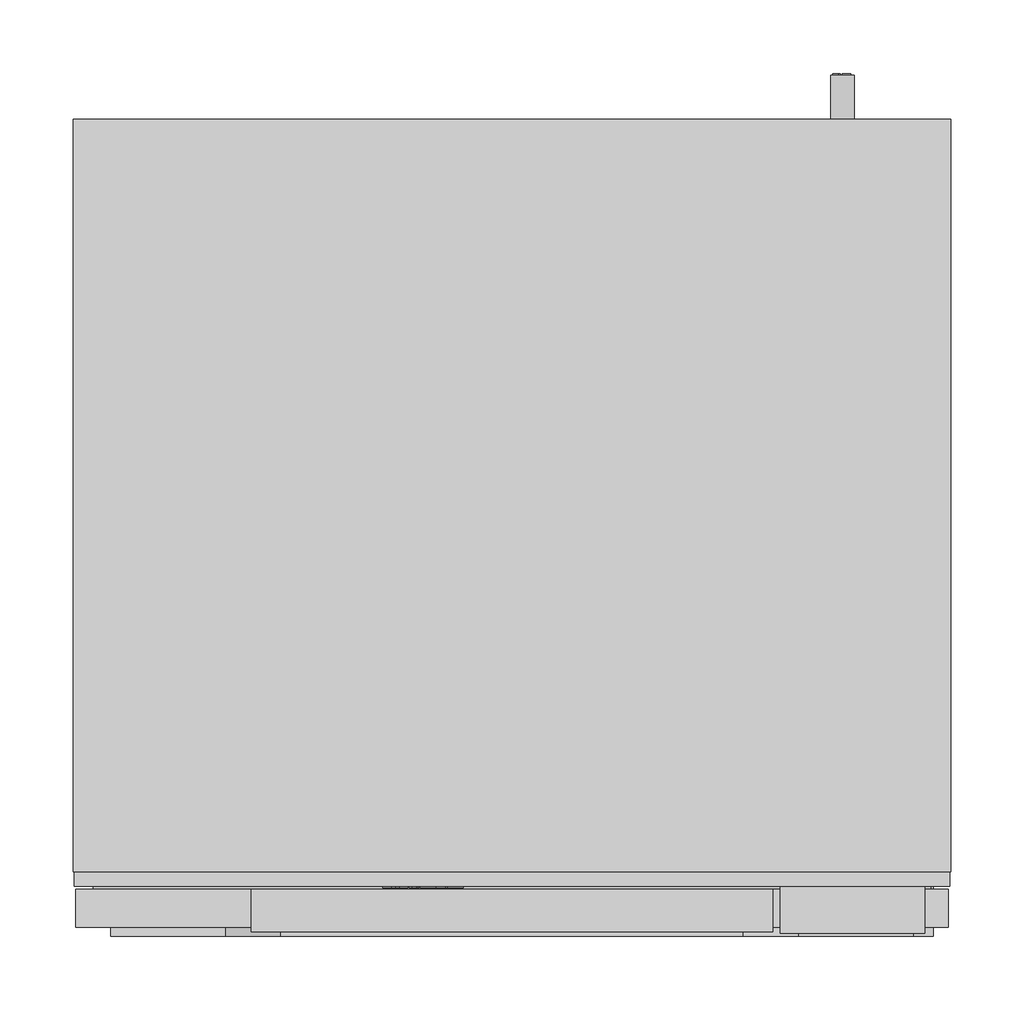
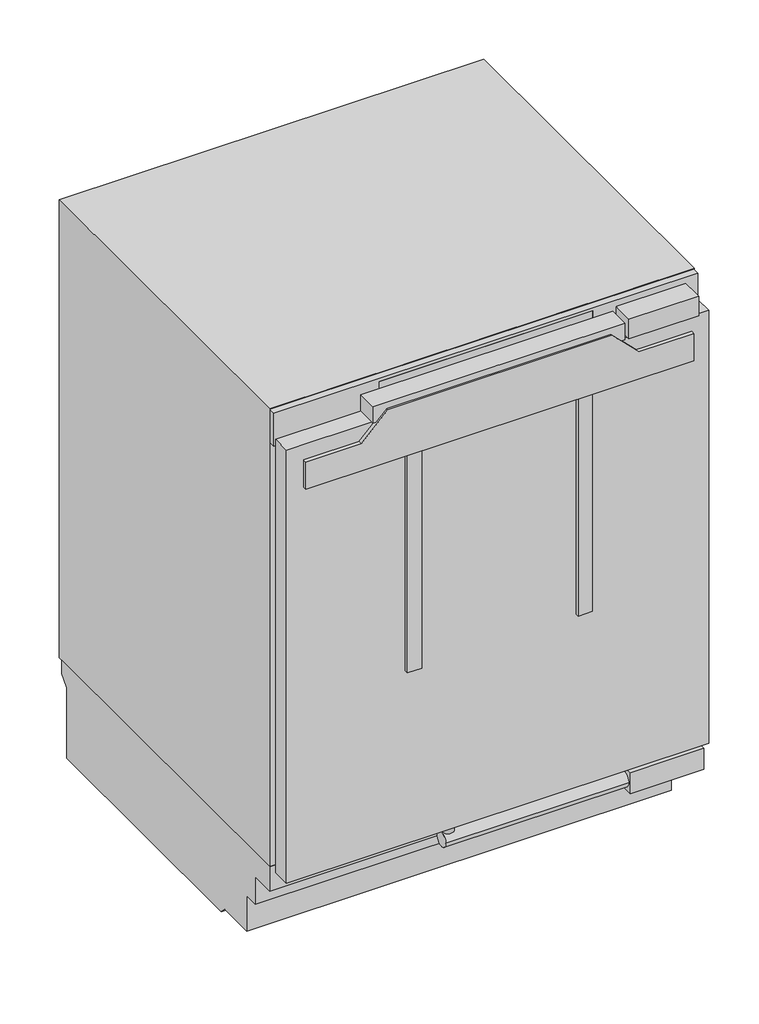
# Not in any storey: 1 proxy.
"""IFC4 building model written with IfcOpenShell, lengths in millimetres."""

import ifcopenshell
import ifcopenshell.guid

model = None  # the IFC model being written
_history = None  # IfcOwnerHistory: only IFC2X3 demands one
_inside = {}  # id of a spatial element -> (the spatial element, [elements in it])
_under = {}  # id of a project, library or spatial element -> (it, [spatial elements below it])
_declared = {}  # id of a project -> (the project, [libraries it declares])
_typed = {}  # id of a type object -> (the type object, [elements of that type])
_made_of = {}  # id of a material, layer set ... -> (it, [elements and type objects made of it])


def new_model(schema):
    """Start an empty IFC model of exactly this schema.

    Asked for "IFC4X3", IfcOpenShell would pick the latest addendum, in which some entities
    have other attributes; the version numbers below select the first issue.
    IFC2X3 requires an IfcOwnerHistory on every rooted entity: one is made here for all.
    """
    global model, _history
    if schema == "IFC4X3":
        model = ifcopenshell.file(schema_version=(4, 3, 0, 0))
    else:
        model = ifcopenshell.file(schema=schema)
    _inside.clear()
    _under.clear()
    _declared.clear()
    _typed.clear()
    _made_of.clear()
    _history = None
    if model.schema == "IFC2X3":
        org = make("IfcOrganization", Name="unknown")
        user = make(
            "IfcPersonAndOrganization",
            ThePerson=make("IfcPerson", FamilyName="unknown"),
            TheOrganization=org,
        )
        app = make(
            "IfcApplication",
            ApplicationDeveloper=org,
            Version="unknown",
            ApplicationFullName="unknown",
            ApplicationIdentifier="unknown",
        )
        _history = make(
            "IfcOwnerHistory",
            OwningUser=user,
            OwningApplication=app,
            ChangeAction="ADDED",
            CreationDate=0,
        )
    return model


def make(cls, **values):
    """One entity of the class cls with the attributes given. An attribute that is None is left unset."""
    return model.create_entity(
        cls, **{name: value for name, value in values.items() if value is not None}
    )


def rooted(cls, **values):
    """An entity with a GlobalId (a new one), such as an element, a storey or a relation."""
    return make(cls, GlobalId=ifcopenshell.guid.new(), OwnerHistory=_history, **values)


def si_unit(unit_type, name, prefix=None):
    """IfcSIUnit, for example si_unit("LENGTHUNIT", "METRE", prefix="MILLI")."""
    return make("IfcSIUnit", UnitType=unit_type, Prefix=prefix, Name=name)


def assignment(units):
    """IfcUnitAssignment: the units of a project."""
    return None if units is None else make("IfcUnitAssignment", Units=units)


def point(xyz):
    """IfcCartesianPoint."""
    return None if xyz is None else make("IfcCartesianPoint", Coordinates=xyz)


def direction(xyz):
    """IfcDirection."""
    return None if xyz is None else make("IfcDirection", DirectionRatios=xyz)


def frame(location, z_axis=None, x_axis=None):
    """IfcAxis2Placement3D, a coordinate frame: its origin and axes. An axis left out is left unset."""
    return make(
        "IfcAxis2Placement3D",
        Location=point(location),
        Axis=direction(z_axis),
        RefDirection=direction(x_axis),
    )


def frame_2d(location, x_axis=None):
    """IfcAxis2Placement2D, a coordinate frame in the plane: its origin and x axis."""
    return make(
        "IfcAxis2Placement2D", Location=point(location), RefDirection=direction(x_axis)
    )


def origin():
    """The frame at (0, 0, 0) with its axes left unset."""
    return frame((0.0, 0.0, 0.0))


def origin_with_axes():
    """The frame at (0, 0, 0) with the z axis (0, 0, 1) and the x axis (1, 0, 0) written out."""
    return frame((0.0, 0.0, 0.0), z_axis=(0.0, 0.0, 1.0), x_axis=(1.0, 0.0, 0.0))


def place(relative_to, where):
    """IfcLocalPlacement: puts the frame where relative to a parent placement (None: the world)."""
    return make(
        "IfcLocalPlacement", PlacementRelTo=relative_to, RelativePlacement=where
    )


def context(
    kind, dimensions, precision=None, world=None, true_north=None, identifier=None
):
    """IfcGeometricRepresentationContext, for example the 3D "Model" context."""
    return make(
        "IfcGeometricRepresentationContext",
        ContextIdentifier=identifier,
        ContextType=kind,
        CoordinateSpaceDimension=dimensions,
        Precision=precision,
        WorldCoordinateSystem=world,
        TrueNorth=true_north,
    )


def project(units=None, contexts=None):
    """IfcProject with its units and contexts."""
    return rooted(
        "IfcProject",
        Name="project",
        RepresentationContexts=contexts,
        UnitsInContext=assignment(units),
    )


def spatial(cls, under=None, at=None, **own):
    """A site, building, storey or space (cls), placed at a placement, below another one or the project."""
    s = rooted(cls, ObjectPlacement=at, **own)
    if under is not None:
        _under.setdefault(under.id(), (under, []))[1].append(s)
    return s


def polyline(points):
    """IfcPolyline through the points."""
    return make("IfcPolyline", Points=[point(p) for p in points])


def circle_curve(where, radius):
    """IfcCircle in the frame where."""
    return make("IfcCircle", Position=where, Radius=radius)


def ellipse_curve(where, semi_axis1, semi_axis2):
    """IfcEllipse in the frame where."""
    return make(
        "IfcEllipse", Position=where, SemiAxis1=semi_axis1, SemiAxis2=semi_axis2
    )


def trimmed(basis, trim1, trim2, sense, master):
    """IfcTrimmedCurve: the piece of a basis curve between two trims."""
    return make(
        "IfcTrimmedCurve",
        BasisCurve=basis,
        Trim1=trim1,
        Trim2=trim2,
        SenseAgreement=sense,
        MasterRepresentation=master,
    )


def segment(curve, same_sense, transition):
    """IfcCompositeCurveSegment."""
    return make(
        "IfcCompositeCurveSegment",
        Transition=transition,
        SameSense=same_sense,
        ParentCurve=curve,
    )


def composite_curve(segments, self_intersect=None):
    """IfcCompositeCurve: segments joined end to end."""
    return make("IfcCompositeCurve", Segments=segments, SelfIntersect=self_intersect)


def outline(outer, holes=None, kind="AREA"):
    """IfcArbitraryClosedProfileDef: a profile drawn as a closed curve; with holes, ...WithVoids."""
    if holes is None:
        return make("IfcArbitraryClosedProfileDef", ProfileType=kind, OuterCurve=outer)
    return make(
        "IfcArbitraryProfileDefWithVoids",
        ProfileType=kind,
        OuterCurve=outer,
        InnerCurves=holes,
    )


def extrude(swept, where, along, depth):
    """IfcExtrudedAreaSolid: the profile swept, set in the frame where, extruded along a direction by depth."""
    return make(
        "IfcExtrudedAreaSolid",
        SweptArea=swept,
        Position=where,
        ExtrudedDirection=direction(along),
        Depth=depth,
    )


def faces_of(points, faces, orient=None, outer=None):
    """IfcFace entities. A face is a list of loops; a loop is a list of indices into points, from 0.

    orient and outer hold one flag for each loop. By default every Orientation is true, the
    first loop of a face is its IfcFaceOuterBound and the others are IfcFaceBound.
    """
    made = []
    for i, loops in enumerate(faces):
        bounds = []
        for j, loop in enumerate(loops):
            is_outer = j == 0 if outer is None else outer[i][j]
            bounds.append(
                make(
                    "IfcFaceOuterBound" if is_outer else "IfcFaceBound",
                    Bound=make("IfcPolyLoop", Polygon=[points[k] for k in loop]),
                    Orientation=True if orient is None else orient[i][j],
                )
            )
        made.append(make("IfcFace", Bounds=bounds))
    return made


def faceted_brep(points, faces, orient=None, outer=None, voids=None):
    """IfcFacetedBrep: a solid bounded by flat faces; with voids (closed shells), ...WithVoids."""
    shared = [point(p) for p in points]
    hull = make("IfcClosedShell", CfsFaces=faces_of(shared, faces, orient, outer))
    if voids is None:
        return make("IfcFacetedBrep", Outer=hull)
    return make(
        "IfcFacetedBrepWithVoids",
        Outer=hull,
        Voids=[
            make(cls, CfsFaces=faces_of(shared, fs, o, b)) for cls, fs, o, b in voids
        ],
    )


def shape(context_of_items, identifier, shape_type, items):
    """IfcShapeRepresentation: the items that make up one representation, for example the "Body"."""
    return make(
        "IfcShapeRepresentation",
        ContextOfItems=context_of_items,
        RepresentationIdentifier=identifier,
        RepresentationType=shape_type,
        Items=items,
    )


def source(mapping_origin, context_of_items, identifier, shape_type, items):
    """IfcRepresentationMap: a shape defined once, which mapped items show again and again."""
    return make(
        "IfcRepresentationMap",
        MappingOrigin=mapping_origin,
        MappedRepresentation=shape(context_of_items, identifier, shape_type, items),
    )


def transform(
    local_origin,
    x_axis=None,
    y_axis=None,
    z_axis=None,
    scale=None,
    scale2=None,
    scale3=None,
    uniform=True,
):
    """IfcCartesianTransformationOperator3D, or its non-uniform kind. x_axis, y_axis, z_axis: its Axis1, 2, 3."""
    if uniform:
        return make(
            "IfcCartesianTransformationOperator3D",
            Axis1=direction(x_axis),
            Axis2=direction(y_axis),
            LocalOrigin=point(local_origin),
            Scale=scale,
            Axis3=direction(z_axis),
        )
    return make(
        "IfcCartesianTransformationOperator3DnonUniform",
        Axis1=direction(x_axis),
        Axis2=direction(y_axis),
        LocalOrigin=point(local_origin),
        Scale=scale,
        Axis3=direction(z_axis),
        Scale2=scale2,
        Scale3=scale3,
    )


def mapped(mapping_source, mapping_target):
    """IfcMappedItem: shows the shape of a source again, moved by a transform."""
    return make(
        "IfcMappedItem", MappingSource=mapping_source, MappingTarget=mapping_target
    )


def made_of(thing, what):
    """Note that an element or type object is made of a material, layer set ...; save() writes the relation."""
    if what is not None:
        _made_of.setdefault(what.id(), (what, []))[1].append(thing)
    return thing


def element(
    cls,
    number,
    at=None,
    inside=None,
    cuts=None,
    type_object=None,
    material=None,
    context=None,
    identifier="Body",
    shape_type=None,
    held_by="IfcProductDefinitionShape",
    body=None,
    shapes=None,
    **own,
):
    """One element of the class cls, such as IfcWall. Its Tag is "e" and its number.

    at: its placement. inside: the storey or other place that contains it. cuts: it is an
    opening in that element (IfcRelVoidsElement). A single representation is given by context,
    identifier, shape_type and body (its items); several are given by shapes. held_by: the class
    of the entity that holds the representations. save() writes the other relations.
    """
    e = rooted(cls, Tag="e%d" % number, ObjectPlacement=at, **own)
    if body is not None:
        shapes = [shape(context, identifier, shape_type, body)]
    if shapes is not None:
        e.Representation = make(held_by, Representations=shapes)
    if inside is not None:
        _inside.setdefault(inside.id(), (inside, []))[1].append(e)
    if cuts is not None:
        rooted(
            "IfcRelVoidsElement", RelatingBuildingElement=cuts, RelatedOpeningElement=e
        )
    if type_object is not None:
        _typed.setdefault(type_object.id(), (type_object, []))[1].append(e)
    return made_of(e, material)


def aggregate(whole, parts):
    """IfcRelAggregates: a whole, such as a stair, and the parts it consists of."""
    return rooted("IfcRelAggregates", RelatingObject=whole, RelatedObjects=parts)


def save(model, path):
    """Write the relations noted so far, then the file.

    IfcRelAggregates (storeys below a building ...), IfcRelContainedInSpatialStructure (elements
    in a storey), IfcRelDefinesByType, IfcRelAssociatesMaterial and IfcRelDeclares: one each for
    every whole, place, type object, material and project.
    """
    for whole, parts in _under.values():
        aggregate(whole, parts)
    for where, things in _inside.values():
        rooted(
            "IfcRelContainedInSpatialStructure",
            RelatedElements=things,
            RelatingStructure=where,
        )
    for kind, things in _typed.values():
        rooted("IfcRelDefinesByType", RelatedObjects=things, RelatingType=kind)
    for what, things in _made_of.values():
        rooted("IfcRelAssociatesMaterial", RelatedObjects=things, RelatingMaterial=what)
    for by, libraries in _declared.values():
        rooted("IfcRelDeclares", RelatingContext=by, RelatedDefinitions=libraries)
    model.write(path)


def plane_surface(at):
    """IfcPlane: the flat surface through the origin of the frame at, square to its z axis."""
    return make("IfcPlane", Position=at)


def cylinder_surface(at, radius):
    """IfcCylindricalSurface: all points at the distance radius from the z axis of the frame at."""
    return make("IfcCylindricalSurface", Position=at, Radius=radius)


def revolved_surface(curve, axis_point, axis_direction):
    """IfcSurfaceOfRevolution: the curve turned about the line through axis_point along axis_direction."""
    return make(
        "IfcSurfaceOfRevolution",
        SweptCurve=make("IfcArbitraryOpenProfileDef", ProfileType="CURVE", Curve=curve),
        AxisPosition=make("IfcAxis1Placement", Location=point(axis_point), Axis=direction(axis_direction)),
    )


def extruded_surface(curve, direction_of_extrusion, depth):
    """IfcSurfaceOfLinearExtrusion: the curve pushed along a direction by depth."""
    return make(
        "IfcSurfaceOfLinearExtrusion",
        SweptCurve=make("IfcArbitraryOpenProfileDef", ProfileType="CURVE", Curve=curve),
        ExtrudedDirection=direction(direction_of_extrusion),
        Depth=depth,
    )


def advanced_brep(points, edges, surfaces, faces):
    """IfcAdvancedBrep: a solid bounded by faces that lie on surfaces and meet in shared edges.

    An edge is (start, end): straight between two places in points (the first is 0);
    or (start, end, curve); or (start, end, curve, False) where it runs against its curve.
    A face is (place in surfaces, loops), or (place, loops, False) where it looks against
    its surface's normal. A loop lists edges by number (the first is 1), with a minus sign
    where the edge is run from its end to its start. The first loop is the outer one.
    """
    corners = [point(p) for p in points]
    vertices = [make("IfcVertexPoint", VertexGeometry=c) for c in corners]
    made = []
    for start, end, *more in edges:
        made.append(
            make(
                "IfcEdgeCurve",
                EdgeStart=vertices[start],
                EdgeEnd=vertices[end],
                EdgeGeometry=more[0] if more else make("IfcPolyline", Points=[corners[start], corners[end]]),
                SameSense=more[1] if len(more) > 1 else True,
            )
        )
    hull = []
    for where, loops, *sense in faces:
        bounds = []
        for j, loop in enumerate(loops):
            ring = [make("IfcOrientedEdge", EdgeElement=made[abs(k) - 1], Orientation=k > 0) for k in loop]
            bounds.append(
                make(
                    "IfcFaceOuterBound" if j == 0 else "IfcFaceBound",
                    Bound=make("IfcEdgeLoop", EdgeList=ring),
                    Orientation=True,
                )
            )
        hull.append(make("IfcAdvancedFace", Bounds=bounds, FaceSurface=surfaces[where], SameSense=sense[0] if sense else True))
    return make("IfcAdvancedBrep", Outer=make("IfcClosedShell", CfsFaces=hull))


def specialty_equipment_a0025fa9(model_context):
    return source(origin(), model_context, "Body", "SolidModel", [
        extrude(outline(polyline([(795.9349293, -88.017), (795.9349293, -86.928), (789.9139293, -86.928), (789.9139293, -88.017), (788.4019293, -88.017), (788.4019293, -84.057), (789.9139293, -84.057), (789.9139293, -85.137), (793.7360541, -85.137), (788.4019293, -81.114), (793.8421516, -77.073), (789.9139293, -77.073), (789.9139293, -78.18), (788.4019293, -78.18), (788.4019293, -70.998), (789.9139293, -70.998), (789.9139293, -72.141), (795.9349293, -72.141), (795.9349293, -70.998), (797.4019293, -70.998), (797.4019293, -76.479), (794.0269293, -79.107), (797.4019293, -81.744), (797.4019293, -88.017), (795.9349293, -88.017)])), frame((0.0, 33.1, 0.0), z_axis=(0.0, 1.0, 0.0), x_axis=(0.0, 0.0, 1.0)), (0.0, 0.0, 1.0), 1.0),
        extrude(outline(polyline([(795.9349293, -51.495), (795.9349293, -50.415), (789.9139293, -50.415), (789.9139293, -51.495), (788.4019293, -51.495), (788.4019293, -44.196), (789.9139293, -44.196), (789.9139293, -45.303), (797.4019293, -45.303), (797.4019293, -51.495), (795.9349293, -51.495)])), frame((0.0, 33.1, 0.0), z_axis=(0.0, 1.0, 0.0), x_axis=(0.0, 0.0, 1.0)), (0.0, 0.0, 1.0), 1.0),
        extrude(outline(polyline([(796.8709293, -67.857), (795.4129293, -67.173), (796.8349293, -64.122), (798.2929293, -64.797), (796.8709293, -67.857)])), frame((0.0, 33.1, 0.0), z_axis=(0.0, 1.0, 0.0), x_axis=(0.0, 0.0, 1.0)), (0.0, 0.0, 1.0), 1.0),
        extrude(outline(polyline([(795.2149293, -70.08), (793.6039293, -70.08), (793.6039293, -69.009), (789.9139293, -69.009), (789.9139293, -70.08), (788.4019293, -70.08), (788.4019293, -62.979), (789.9139293, -62.979), (789.9139293, -64.023), (795.2149293, -64.023), (795.2149293, -70.08)])), frame((0.0, 33.1, 0.0), z_axis=(0.0, 1.0, 0.0), x_axis=(0.0, 0.0, 1.0)), (0.0, 0.0, 1.0), 1.0),
        advanced_brep(
        [(-58.02, 33.1, 790.5349293), (-58.02, 33.1, 791.4439293), (-51.999, 33.1, 791.4439293), (-62.475, 33.1, 791.4439293), (-60.0, 33.1, 788.4019293), (-52.152, 33.1, 790.5349293), (-54.87, 33.1, 790.5349293), (-57.012, 33.1, 789.5269293), (-58.02, 33.1, 792.5959293), (-58.02, 33.1, 793.5769293), (-56.481, 33.1, 793.5769293), (-56.481, 33.1, 792.5959293), (-58.02, 34.1, 790.5349293), (-57.012, 34.1, 789.5269293), (-54.87, 34.1, 790.5349293), (-52.152, 34.1, 790.5349293), (-60.0, 34.1, 788.4019293), (-62.475, 34.1, 791.4439293), (-51.999, 34.1, 791.4439293), (-58.02, 34.1, 791.4439293), (-58.02, 34.1, 792.5959293), (-56.481, 34.1, 792.5959293), (-56.481, 34.1, 793.5769293), (-58.02, 34.1, 793.5769293)],
        [
            (0, 1),
            (1, 2),
            (2, 3, ellipse_curve(frame((-57.237, 33.1, 791.4439293), z_axis=(0.0, -1.0, 0.0), x_axis=(-1.0, 0.0, 0.0)), 5.238, 4.329)),
            (3, 4, circle_curve(frame((-58.9919509, 33.1, 791.7499293), z_axis=(0.0, -1.0, 0.0), x_axis=(0.0, 0.0, -1.0)), 3.4964649)),
            (4, 5, circle_curve(frame((-57.3418572, 33.1, 794.1259293), z_axis=(0.0, -1.0, 0.0), x_axis=(0.0, 0.0, -1.0)), 6.3110933)),
            (5, 6),
            (6, 7, circle_curve(frame((-56.5720588, 33.1, 791.3719293), z_axis=(0.0, 1.0, 0.0), x_axis=(0.0, 0.0, -1.0)), 1.896727)),
            (7, 0, circle_curve(frame((-57.012, 33.1, 790.5349293), z_axis=(0.0, 1.0, 0.0), x_axis=(0.0, 0.0, -1.0)), 1.008)),
            (8, 9),
            (9, 10, circle_curve(frame((-57.2505, 33.1, 793.5769293), z_axis=(0.0, 1.0, 0.0), x_axis=(0.0, 0.0, -1.0)), 0.7695)),
            (10, 11),
            (11, 8),
            (12, 13, circle_curve(frame((-57.012, 34.1, 790.5349293), z_axis=(0.0, -1.0, 0.0), x_axis=(0.0, 0.0, -1.0)), 1.008)),
            (13, 14, circle_curve(frame((-56.5720588, 34.1, 791.3719293), z_axis=(0.0, -1.0, 0.0), x_axis=(0.0, 0.0, -1.0)), 1.896727)),
            (14, 15),
            (15, 16, circle_curve(frame((-57.3418572, 34.1, 794.1259293), z_axis=(0.0, 1.0, 0.0), x_axis=(0.0, 0.0, -1.0)), 6.3110933)),
            (16, 17, circle_curve(frame((-58.9919509, 34.1, 791.7499293), z_axis=(0.0, 1.0, 0.0), x_axis=(0.0, 0.0, -1.0)), 3.4964649)),
            (17, 18, ellipse_curve(frame((-57.237, 34.1, 791.4439293), z_axis=(0.0, 1.0, 0.0), x_axis=(-1.0, 0.0, 0.0)), 5.238, 4.329)),
            (18, 19),
            (19, 12),
            (20, 21),
            (21, 22),
            (22, 23, circle_curve(frame((-57.2505, 34.1, 793.5769293), z_axis=(0.0, -1.0, 0.0), x_axis=(0.0, 0.0, -1.0)), 0.7695)),
            (23, 20),
            (0, 12),
            (19, 1),
            (18, 2),
            (5, 15),
            (14, 6),
            (17, 3),
            (13, 7),
            (16, 4),
            (8, 20),
            (23, 9),
            (22, 10),
            (21, 11),
        ],
        [
            plane_surface(frame((-58.02, 33.1, 791.4439293), z_axis=(0.0, -1.0, 0.0), x_axis=(0.0, 0.0, 1.0))),
            plane_surface(frame((-58.02, 34.1, 791.4439293), z_axis=(0.0, 1.0, 0.0), x_axis=(0.0, 0.0, -1.0))),
            plane_surface(frame((-58.02, 33.1, 790.5349293), z_axis=(1.0, 0.0, 0.0), x_axis=(0.0, 1.0, 0.0))),
            plane_surface(frame((-58.02, 33.1, 791.4439293), z_axis=(0.0, 0.0, -1.0), x_axis=(0.0, 1.0, 0.0))),
            plane_surface(frame((-52.152, 33.1, 790.5349293), z_axis=(0.0, 0.0, 1.0), x_axis=(0.0, 1.0, 0.0))),
            extruded_surface(trimmed(ellipse_curve(frame((-57.237, 35.1, 791.4439293), z_axis=(0.0, -1.0, 0.0), x_axis=(-1.0, 0.0, 0.0)), 5.238, 4.329), [point((-51.999, 35.1, 791.4439293))], [point((-62.475, 35.1, 791.4439293))], True, "CARTESIAN"), (0.0, -1.0, 0.0), 1.0),
            revolved_surface(polyline([(-56.5720588, 34.1, 789.4752023), (-56.5720588, 33.1, 789.4752023)]), (-56.5720588, 34.1, 791.3719293), (0.0, 1.0, 0.0)),
            revolved_surface(polyline([(-57.012, 34.1, 789.5269293), (-57.012, 33.1, 789.5269293)]), (-57.012, 34.1, 790.5349293), (0.0, 1.0, 0.0)),
            cylinder_surface(frame((-58.9919509, 34.1, 791.7499293), z_axis=(0.0, -1.0, 0.0), x_axis=(0.0, 0.0, -1.0)), 3.4964649),
            cylinder_surface(frame((-57.3418572, 34.1, 794.1259293), z_axis=(0.0, -1.0, 0.0), x_axis=(0.0, 0.0, -1.0)), 6.3110933),
            plane_surface(frame((-58.02, 33.1, 792.5959293), z_axis=(1.0, 0.0, 0.0), x_axis=(0.0, 1.0, 0.0))),
            revolved_surface(polyline([(-57.2505, 34.1, 792.8074293), (-57.2505, 33.1, 792.8074293)]), (-57.2505, 34.1, 793.5769293), (0.0, 1.0, 0.0)),
            plane_surface(frame((-56.481, 33.1, 793.5769293), z_axis=(-1.0, 0.0, 0.0), x_axis=(0.0, 1.0, 0.0))),
            plane_surface(frame((-56.481, 33.1, 792.5959293), z_axis=(0.0, 0.0, 1.0), x_axis=(0.0, 1.0, 0.0))),
        ],
        [
            (0, [[1, 2, 3, 4, 5, 6, 7, 8], [9, 10, 11, 12]]),
            (1, [[13, 14, 15, 16, 17, 18, 19, 20], [21, 22, 23, 24]]),
            (2, [[-1, 25, -20, 26]]),
            (3, [[-2, -26, -19, 27]]),
            (4, [[-6, 28, -15, 29]]),
            (5, [[-3, -27, -18, 30]]),
            (6, [[-7, -29, -14, 31]]),
            (7, [[-8, -31, -13, -25]]),
            (8, [[-4, -30, -17, 32]]),
            (9, [[-5, -32, -16, -28]]),
            (10, [[-9, 33, -24, 34]]),
            (11, [[-10, -34, -23, 35]]),
            (12, [[-11, -35, -22, 36]]),
            (13, [[-12, -36, -21, -33]]),
        ],
    ),
        advanced_brep(
        [(-39.237, 33.1, 790.5349293), (-39.237, 33.1, 791.4439293), (-33.216, 33.1, 791.4439293), (-43.692, 33.1, 791.4439293), (-41.217, 33.1, 788.4019293), (-33.369, 33.1, 790.5349293), (-36.087, 33.1, 790.5349293), (-38.229, 33.1, 789.5269293), (-39.237, 33.1, 792.5959293), (-39.237, 33.1, 793.5769293), (-37.698, 33.1, 793.5769293), (-37.698, 33.1, 792.5959293), (-39.237, 34.1, 790.5349293), (-38.229, 34.1, 789.5269293), (-36.087, 34.1, 790.5349293), (-33.369, 34.1, 790.5349293), (-41.217, 34.1, 788.4019293), (-43.692, 34.1, 791.4439293), (-33.216, 34.1, 791.4439293), (-39.237, 34.1, 791.4439293), (-39.237, 34.1, 792.5959293), (-37.698, 34.1, 792.5959293), (-37.698, 34.1, 793.5769293), (-39.237, 34.1, 793.5769293)],
        [
            (0, 1),
            (1, 2),
            (2, 3, ellipse_curve(frame((-38.454, 33.1, 791.4439293), z_axis=(0.0, -1.0, 0.0), x_axis=(-1.0, 0.0, 0.0)), 5.238, 4.329)),
            (3, 4, circle_curve(frame((-40.2089509, 33.1, 791.7499293), z_axis=(0.0, -1.0, 0.0), x_axis=(0.0, 0.0, -1.0)), 3.4964649)),
            (4, 5, circle_curve(frame((-38.5588572, 33.1, 794.1259293), z_axis=(0.0, -1.0, 0.0), x_axis=(0.0, 0.0, -1.0)), 6.3110933)),
            (5, 6),
            (6, 7, circle_curve(frame((-37.7890588, 33.1, 791.3719293), z_axis=(0.0, 1.0, 0.0), x_axis=(0.0, 0.0, -1.0)), 1.896727)),
            (7, 0, circle_curve(frame((-38.229, 33.1, 790.5349293), z_axis=(0.0, 1.0, 0.0), x_axis=(0.0, 0.0, -1.0)), 1.008)),
            (8, 9),
            (9, 10, circle_curve(frame((-38.4675, 33.1, 793.5769293), z_axis=(0.0, 1.0, 0.0), x_axis=(0.0, 0.0, -1.0)), 0.7695)),
            (10, 11),
            (11, 8),
            (12, 13, circle_curve(frame((-38.229, 34.1, 790.5349293), z_axis=(0.0, -1.0, 0.0), x_axis=(0.0, 0.0, -1.0)), 1.008)),
            (13, 14, circle_curve(frame((-37.7890588, 34.1, 791.3719293), z_axis=(0.0, -1.0, 0.0), x_axis=(0.0, 0.0, -1.0)), 1.896727)),
            (14, 15),
            (15, 16, circle_curve(frame((-38.5588572, 34.1, 794.1259293), z_axis=(0.0, 1.0, 0.0), x_axis=(0.0, 0.0, -1.0)), 6.3110933)),
            (16, 17, circle_curve(frame((-40.2089509, 34.1, 791.7499293), z_axis=(0.0, 1.0, 0.0), x_axis=(0.0, 0.0, -1.0)), 3.4964649)),
            (17, 18, ellipse_curve(frame((-38.454, 34.1, 791.4439293), z_axis=(0.0, 1.0, 0.0), x_axis=(-1.0, 0.0, 0.0)), 5.238, 4.329)),
            (18, 19),
            (19, 12),
            (20, 21),
            (21, 22),
            (22, 23, circle_curve(frame((-38.4675, 34.1, 793.5769293), z_axis=(0.0, -1.0, 0.0), x_axis=(0.0, 0.0, -1.0)), 0.7695)),
            (23, 20),
            (0, 12),
            (19, 1),
            (18, 2),
            (5, 15),
            (14, 6),
            (17, 3),
            (13, 7),
            (16, 4),
            (8, 20),
            (23, 9),
            (22, 10),
            (21, 11),
        ],
        [
            plane_surface(frame((-39.237, 33.1, 791.4439293), z_axis=(0.0, -1.0, 0.0), x_axis=(0.0, 0.0, 1.0))),
            plane_surface(frame((-39.237, 34.1, 791.4439293), z_axis=(0.0, 1.0, 0.0), x_axis=(0.0, 0.0, -1.0))),
            plane_surface(frame((-39.237, 33.1, 790.5349293), z_axis=(1.0, 0.0, 0.0), x_axis=(0.0, 1.0, 0.0))),
            plane_surface(frame((-39.237, 33.1, 791.4439293), z_axis=(0.0, 0.0, -1.0), x_axis=(0.0, 1.0, 0.0))),
            plane_surface(frame((-33.369, 33.1, 790.5349293), z_axis=(0.0, 0.0, 1.0), x_axis=(0.0, 1.0, 0.0))),
            extruded_surface(trimmed(ellipse_curve(frame((-38.454, 35.1, 791.4439293), z_axis=(0.0, -1.0, 0.0), x_axis=(-1.0, 0.0, 0.0)), 5.238, 4.329), [point((-33.216, 35.1, 791.4439293))], [point((-43.692, 35.1, 791.4439293))], True, "CARTESIAN"), (0.0, -1.0, 0.0), 1.0),
            revolved_surface(polyline([(-37.7890588, 34.1, 789.4752023), (-37.7890588, 33.1, 789.4752023)]), (-37.7890588, 34.1, 791.3719293), (0.0, 1.0, 0.0)),
            revolved_surface(polyline([(-38.229, 34.1, 789.5269293), (-38.229, 33.1, 789.5269293)]), (-38.229, 34.1, 790.5349293), (0.0, 1.0, 0.0)),
            cylinder_surface(frame((-40.2089509, 34.1, 791.7499293), z_axis=(0.0, -1.0, 0.0), x_axis=(0.0, 0.0, -1.0)), 3.4964649),
            cylinder_surface(frame((-38.5588572, 34.1, 794.1259293), z_axis=(0.0, -1.0, 0.0), x_axis=(0.0, 0.0, -1.0)), 6.3110933),
            plane_surface(frame((-39.237, 33.1, 792.5959293), z_axis=(1.0, 0.0, 0.0), x_axis=(0.0, 1.0, 0.0))),
            revolved_surface(polyline([(-38.4675, 34.1, 792.8074293), (-38.4675, 33.1, 792.8074293)]), (-38.4675, 34.1, 793.5769293), (0.0, 1.0, 0.0)),
            plane_surface(frame((-37.698, 33.1, 793.5769293), z_axis=(-1.0, 0.0, 0.0), x_axis=(0.0, 1.0, 0.0))),
            plane_surface(frame((-37.698, 33.1, 792.5959293), z_axis=(0.0, 0.0, 1.0), x_axis=(0.0, 1.0, 0.0))),
        ],
        [
            (0, [[1, 2, 3, 4, 5, 6, 7, 8], [9, 10, 11, 12]]),
            (1, [[13, 14, 15, 16, 17, 18, 19, 20], [21, 22, 23, 24]]),
            (2, [[-1, 25, -20, 26]]),
            (3, [[-2, -26, -19, 27]]),
            (4, [[-6, 28, -15, 29]]),
            (5, [[-3, -27, -18, 30]]),
            (6, [[-7, -29, -14, 31]]),
            (7, [[-8, -31, -13, -25]]),
            (8, [[-4, -30, -17, 32]]),
            (9, [[-5, -32, -16, -28]]),
            (10, [[-9, 33, -24, 34]]),
            (11, [[-10, -34, -23, 35]]),
            (12, [[-11, -35, -22, 36]]),
            (13, [[-12, -36, -21, -33]]),
        ],
    ),
        extrude(outline(polyline([(150.0048218, 34.0937347), (-150.0048218, 34.0937347), (-150.0048218, 44.0), (150.0048218, 44.0), (150.0048218, 34.0937347)])), frame((0.0, 0.0, 773.2139282), z_axis=(0.0, 0.0, 1.0), x_axis=(1.0, 0.0, 0.0)), (0.0, 0.0, 1.0), 39.9850464),
        extrude(outline(polyline([(817.6989746, 298.0), (817.6989746, -298.0), (768.7051238, -298.0), (768.7051238, 298.0), (817.6989746, 298.0)]), holes=[polyline([(813.1989746, -150.0048218), (813.1989746, 150.0048218), (773.2139282, 150.0048218), (773.2139282, -150.0048218), (813.1989746, -150.0048218)])]), frame((0.0, 34.0937347, 0.0), z_axis=(0.0, 1.0, 0.0), x_axis=(0.0, 0.0, 1.0)), (0.0, 0.0, 1.0), 9.9062653),
        faceted_brep([(-298.5, 550.1, 137.8999939), (-298.5, 550.1, 117.6051112), (-298.5, 537.6, 105.1051112), (-298.5, 537.6, 0.0), (-298.5, 161.2567793, 0.0), (-298.5, 152.9391747, 8.3176046), (-298.5, 100.0, 8.3176046), (-298.5, 100.0, 60.7725754), (-298.5, 79.0216446, 60.7725754), (-298.5, 79.0216446, 101.8184894), (-298.5, 44.0, 101.8184894), (-298.5, 44.0, 137.8999939), (298.5, 550.1, 137.8999939), (298.5, 44.0, 137.8999939), (298.5, 44.0, 101.8184894), (298.5, 79.0216446, 101.8184894), (298.5, 79.0216446, 60.7725754), (298.5, 100.0, 60.7725754), (298.5, 100.0, 8.3176046), (298.5, 152.9391747, 8.3176046), (298.5, 161.2567793, 0.0), (298.5, 537.6, 0.0), (298.5, 537.6, 105.1051112), (298.5, 550.1, 117.6051112), (296.7000122, 463.8596389, 0.0), (256.5957336, 463.8596389, 0.0), (256.5957336, 399.1975098, 0.0), (296.7000122, 399.1975098, 0.0), (-296.7000122, 463.8596389, 0.0), (-296.7000122, 399.1975098, 0.0), (-256.5957336, 399.1975098, 0.0), (-256.5957336, 463.8596389, 0.0), (296.7000122, 463.8596389, 8.7371401), (296.7000122, 399.1975098, 8.7371401), (256.5957336, 399.1975098, 8.7371401), (256.5957336, 463.8596389, 8.7371401), (-296.7000122, 463.8596389, 8.7371401), (-256.5957336, 463.8596389, 8.7371401), (-256.5957336, 399.1975098, 8.7371401), (-296.7000122, 399.1975098, 8.7371401)], [[[0, 1, 2, 3, 4, 5, 6, 7, 8, 9, 10, 11]], [[12, 13, 14, 15, 16, 17, 18, 19, 20, 21, 22, 23]], [[0, 11, 13, 12]], [[11, 10, 14, 13]], [[10, 9, 15, 14]], [[9, 8, 16, 15]], [[8, 7, 17, 16]], [[7, 6, 18, 17]], [[6, 5, 19, 18]], [[5, 4, 20, 19]], [[4, 3, 21, 20], [24, 25, 26, 27], [28, 29, 30, 31]], [[3, 2, 22, 21]], [[2, 1, 23, 22]], [[1, 0, 12, 23]], [[32, 33, 34, 35]], [[36, 37, 38, 39]], [[32, 35, 25, 24]], [[35, 34, 26, 25]], [[34, 33, 27, 26]], [[33, 32, 24, 27]], [[36, 39, 29, 28]], [[39, 38, 30, 29]], [[38, 37, 31, 30]], [[37, 36, 28, 31]]]),
        faceted_brep([(298.5, 44.0, 819.0), (298.5, 44.0, 137.8999939), (298.5, 556.2, 137.8999939), (298.5, 556.2, 819.0), (-298.5, 44.0, 819.0), (-298.5, 556.2, 819.0), (-298.5, 556.2, 137.8999939), (-298.5, 44.0, 137.8999939), (263.0, 44.0, 719.0), (263.0, 44.0, 150.0), (-263.0, 44.0, 150.0), (-263.0, 44.0, 719.0), (263.0, 510.8638012, 150.0), (263.0, 510.8638012, 719.0), (-263.0, 510.8638012, 719.0), (-263.0, 510.8638012, 150.0)], [[[0, 1, 2, 3]], [[4, 5, 6, 7]], [[1, 0, 4, 7], [8, 9, 10, 11]], [[2, 1, 7, 6]], [[3, 2, 6, 5]], [[0, 3, 5, 4]], [[12, 13, 14, 15]], [[13, 12, 9, 8]], [[14, 13, 8, 11]], [[15, 14, 11, 10]], [[12, 15, 10, 9]]]),
        extrude(outline(polyline([(263.0, 510.8638012), (263.0, 339.3), (-263.0, 339.3), (-263.0, 510.8638012), (263.0, 510.8638012)])), frame((0.0, 0.0, 150.0), z_axis=(0.0, 0.0, 1.0), x_axis=(1.0, 0.0, 0.0)), (0.0, 0.0, 1.0), 71.8999939),
        extrude(outline(composite_curve([segment(trimmed(circle_curve(frame_2d((-270.8532135, 136.0)), 15.7049948), [point((-286.5582083, 136.0))], [point((-255.1482187, 136.0))], False, "CARTESIAN"), True, "CONTINUOUS"), segment(trimmed(circle_curve(frame_2d((-270.8532135, 136.0)), 15.7049948), [point((-255.1482187, 136.0))], [point((-286.5582083, 136.0))], False, "CARTESIAN"), True, "CONTINUOUS")], self_intersect=False)), origin_with_axes(), (0.0, 0.0, 1.0), 8.3176046),
        extrude(outline(composite_curve([segment(trimmed(circle_curve(frame_2d((270.8532135, 136.0)), 15.7049948), [point((286.5582083, 136.0))], [point((255.1482187, 136.0))], False, "CARTESIAN"), True, "CONTINUOUS"), segment(trimmed(circle_curve(frame_2d((270.8532135, 136.0)), 15.7049948), [point((255.1482187, 136.0))], [point((286.5582083, 136.0))], False, "CARTESIAN"), True, "CONTINUOUS")], self_intersect=False)), origin_with_axes(), (0.0, 0.0, 1.0), 8.3176046),
        extrude(outline(composite_curve([segment(trimmed(circle_curve(frame_2d((-275.822369, 437.7)), 16.0), [point((-291.822369, 437.7))], [point((-259.822369, 437.7))], False, "CARTESIAN"), True, "CONTINUOUS"), segment(trimmed(circle_curve(frame_2d((-275.822369, 437.7)), 16.0), [point((-259.822369, 437.7))], [point((-291.822369, 437.7))], False, "CARTESIAN"), True, "CONTINUOUS")], self_intersect=False)), origin_with_axes(), (0.0, 0.0, 1.0), 8.3176046),
        extrude(outline(composite_curve([segment(trimmed(circle_curve(frame_2d((275.822369, 437.7)), 16.0), [point((259.822369, 437.7))], [point((291.822369, 437.7))], False, "CARTESIAN"), True, "CONTINUOUS"), segment(trimmed(circle_curve(frame_2d((275.822369, 437.7)), 16.0), [point((291.822369, 437.7))], [point((259.822369, 437.7))], False, "CARTESIAN"), True, "CONTINUOUS")], self_intersect=False)), origin_with_axes(), (0.0, 0.0, 1.0), 8.3176046),
        extrude(outline(composite_curve([segment(trimmed(circle_curve(frame_2d((144.2460785, 224.8152695)), 8.0), [point((144.2460785, 216.8152695))], [point((144.2460785, 232.8152695))], False, "CARTESIAN"), True, "CONTINUOUS"), segment(trimmed(circle_curve(frame_2d((144.2460785, 224.8152695)), 8.0), [point((144.2460785, 232.8152695))], [point((144.2460785, 216.8152695))], False, "CARTESIAN"), True, "CONTINUOUS")], self_intersect=False)), frame((0.0, 556.2, 0.0), z_axis=(0.0, 1.0, 0.0), x_axis=(0.0, 0.0, 1.0)), (0.0, 0.0, 1.0), 30.0),
        extrude(outline(polyline([(140.2460785, 230.7170777), (148.2825833, 230.7170777), (148.2825833, 224.9408399), (147.2780202, 224.9408399), (147.2780202, 229.7125146), (144.8921828, 229.7125146), (144.8921828, 225.1919806), (143.8876197, 225.1919806), (143.8876197, 229.7125146), (141.2506416, 229.7125146), (141.2506416, 224.8152695), (140.2460785, 224.8152695), (140.2460785, 230.7170777)])), frame((0.0, 586.2, 0.0), z_axis=(0.0, 1.0, 0.0), x_axis=(0.0, 0.0, 1.0)), (0.0, 0.0, 1.0), 1.0),
        extrude(outline(polyline([(140.2460785, 223.3084248), (148.2825833, 223.3084248), (148.2825833, 222.3038617), (141.2506416, 222.3038617), (141.2506416, 218.2856093), (140.2460785, 218.2856093), (140.2460785, 223.3084248)])), frame((0.0, 586.2, 0.0), z_axis=(0.0, 1.0, 0.0), x_axis=(0.0, 0.0, 1.0)), (0.0, 0.0, 1.0), 1.0),
        extrude(outline(polyline([(280.7999573, 2.0229698), (182.5283813, 2.0229698), (182.5283813, 44.0), (280.7999573, 44.0), (280.7999573, 2.0229698)])), frame((0.0, 0.0, 780.0), z_axis=(0.0, 0.0, 1.0), x_axis=(1.0, 0.0, 0.0)), (0.0, 0.0, 1.0), 28.7067261),
        extrude(outline(polyline([(297.0, 6.0), (-297.0, 6.0), (-297.0, 32.0), (297.0, 32.0), (297.0, 6.0)])), frame((0.0, 0.0, 136.0), z_axis=(0.0, 0.0, 1.0), x_axis=(1.0, 0.0, 0.0)), (0.0, 0.0, 1.0), 644.0),
        extrude(outline(polyline([(285.0, 44.0), (285.0, 32.0), (-285.0, 32.0), (-285.0, 44.0), (285.0, 44.0)])), frame((0.0, 0.0, 148.5030441), z_axis=(0.0, 0.0, 1.0), x_axis=(1.0, 0.0, 0.0)), (0.0, 0.0, 1.0), 615.9969559),
        extrude(outline(polyline([(804.6210938, 177.3252429), (804.6210938, -177.3251393), (780.0, -177.3252429), (780.0, 177.3252429), (804.6210938, 177.3252429)])), frame((0.0, 3.0, 0.0), z_axis=(0.0, 1.0, 0.0), x_axis=(0.0, 0.0, 1.0)), (0.0, 0.0, 1.0), 29.0),
        extrude(outline(composite_curve([segment(trimmed(circle_curve(frame_2d((14.2130013, 118.3500061)), 10.647874), [point((3.5651273, 118.3500061))], [point((24.8608752, 118.3500061))], False, "CARTESIAN"), True, "CONTINUOUS"), segment(trimmed(circle_curve(frame_2d((14.2130013, 118.3500061)), 10.647874), [point((24.8608752, 118.3500061))], [point((3.5651273, 118.3500061))], False, "CARTESIAN"), True, "CONTINUOUS")], self_intersect=False)), frame((-73.8137398, 0.0, 0.0), z_axis=(1.0, 0.0, 0.0), x_axis=(0.0, 1.0, 0.0)), (0.0, 0.0, 1.0), 257.1515813),
        extrude(outline(composite_curve([segment(trimmed(circle_curve(frame_2d((-65.2000504, 14.2130013)), 8.0), [point((-73.2000504, 14.2130013))], [point((-57.2000504, 14.2130013))], False, "CARTESIAN"), True, "CONTINUOUS"), segment(trimmed(circle_curve(frame_2d((-65.2000504, 14.2130013)), 8.0), [point((-57.2000504, 14.2130013))], [point((-73.2000504, 14.2130013))], False, "CARTESIAN"), True, "CONTINUOUS")], self_intersect=False)), frame((0.0, 0.0, 128.9978801), z_axis=(0.0, 0.0, 1.0), x_axis=(1.0, 0.0, 0.0)), (0.0, 0.0, 1.0), 7.0021199),
        extrude(outline(polyline([(286.7815857, 0.0), (183.3378415, 0.0), (183.3378415, 44.0), (286.7815857, 44.0), (286.7815857, 0.0)])), frame((0.0, 0.0, 104.8), z_axis=(0.0, 0.0, 1.0), x_axis=(1.0, 0.0, 0.0)), (0.0, 0.0, 1.0), 31.2),
        extrude(outline(polyline([(757.315066, -195.1876874), (757.315066, -272.9755319), (716.8499888, -272.9755319), (716.8499888, 272.9755319), (757.315066, 272.9755319), (757.315066, 195.1876874), (794.938205, 157.5645484), (794.938205, -157.5645484), (757.315066, -195.1876874)])), frame((0.0, 0.0, 0.0), z_axis=(0.0, 1.0, 0.0), x_axis=(0.0, 0.0, 1.0)), (0.0, 0.0, 1.0), 6.0),
        extrude(outline(polyline([(-110.0, 0.0), (-130.0, 0.0), (-130.0, 6.0), (-110.0, 6.0), (-110.0, 0.0)])), frame((0.0, 0.0, 394.1054382), z_axis=(0.0, 0.0, 1.0), x_axis=(1.0, 0.0, 0.0)), (0.0, 0.0, 1.0), 322.7445505),
        extrude(outline(polyline([(130.0, 0.0), (110.0, 0.0), (110.0, 6.0), (130.0, 6.0), (130.0, 0.0)])), frame((0.0, 0.0, 394.1054382), z_axis=(0.0, 0.0, 1.0), x_axis=(1.0, 0.0, 0.0)), (0.0, 0.0, 1.0), 322.7445505),
    ])


model = new_model("IFC4")

# Units and contexts
model_context = context("Model", 3, world=origin())
ifc_project = project(units=[si_unit("LENGTHUNIT", "METRE", prefix="MILLI")], contexts=[model_context])

# Site, building
site = spatial("IfcSite", under=ifc_project)
building = spatial("IfcBuilding", under=site)

# Proxy
placement = place(None, origin())
specialty_equipment_shape = specialty_equipment_a0025fa9(model_context)
element("IfcBuildingElementProxy", 1, Name="12519130_EU1_KU7035D : 36703510_EU1_12519130_KU7035D", ObjectType="12519130_EU1_KU7035D : 36703510_EU1_12519130_KU7035D", at=placement, inside=building, context=model_context, shape_type="MappedRepresentation", body=[
    mapped(specialty_equipment_shape, transform((0.0, 0.0, 0.0), x_axis=(1.0, 0.0, 0.0), y_axis=(0.0, 1.0, 0.0), z_axis=(0.0, 0.0, 1.0))),
])

save(model, "model.ifc")
